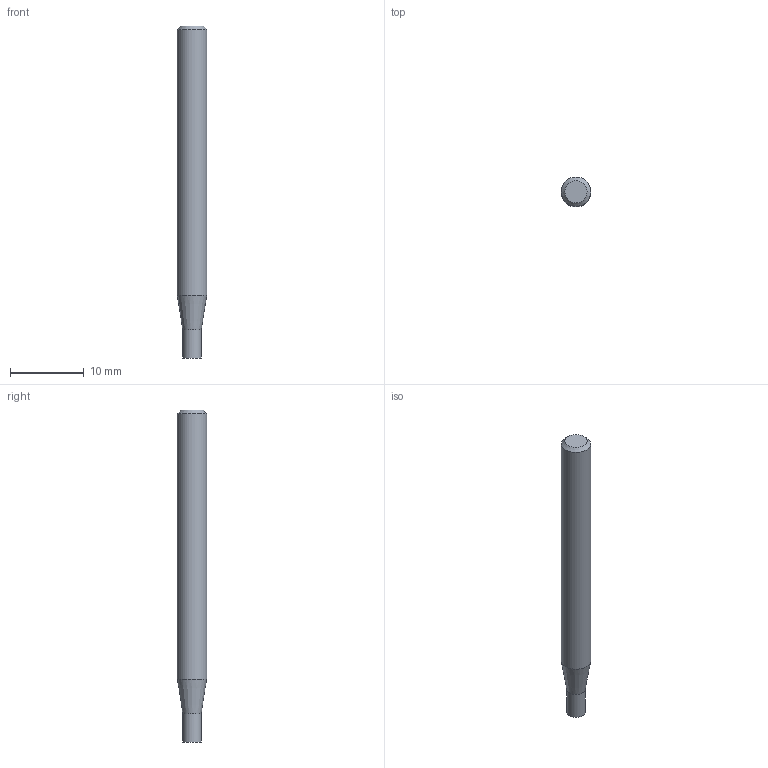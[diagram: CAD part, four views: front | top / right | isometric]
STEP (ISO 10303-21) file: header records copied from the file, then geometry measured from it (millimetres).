
FILE_DESCRIPTION((''),'2;1');
FILE_NAME('C:\Users\nsx150\AppData\Local\Temp\Mastercam 2021\98T1Q6BTT1\TEMP.step','2021-10-21T14:48:09',(''),(''),'STEP Write','Mastercam 2021 ... CNC Software, Inc.','');
FILE_SCHEMA(('AUTOMOTIVE_DESIGN'));
Length unit declared in the file: millimetre
Products named in the file (1): None
Bounding box: 4 x 4 x 45 mm (x, y, z)
Volume: 515.4 mm3; surface area: 560.3 mm2
Topology: 2 solids, 2 shells, 8 faces, 10 edges, 6 vertices
Faces by surface type: plane 4, cylinder 2, cone 2
Full cylindrical faces by diameter (mm): 2.5 x1, 4 x1
Entity records: 190 total; most frequent: DIRECTION 32, CARTESIAN_POINT 22, AXIS2_PLACEMENT_3D 16, ORIENTED_EDGE 12, EDGE_LOOP 12, STYLED_ITEM 11, ADVANCED_FACE 8, VERTEX_POINT 6
